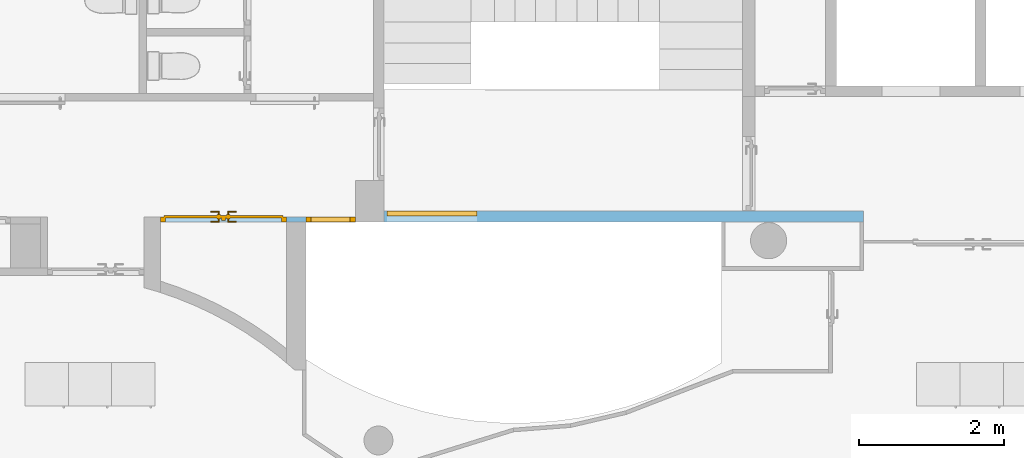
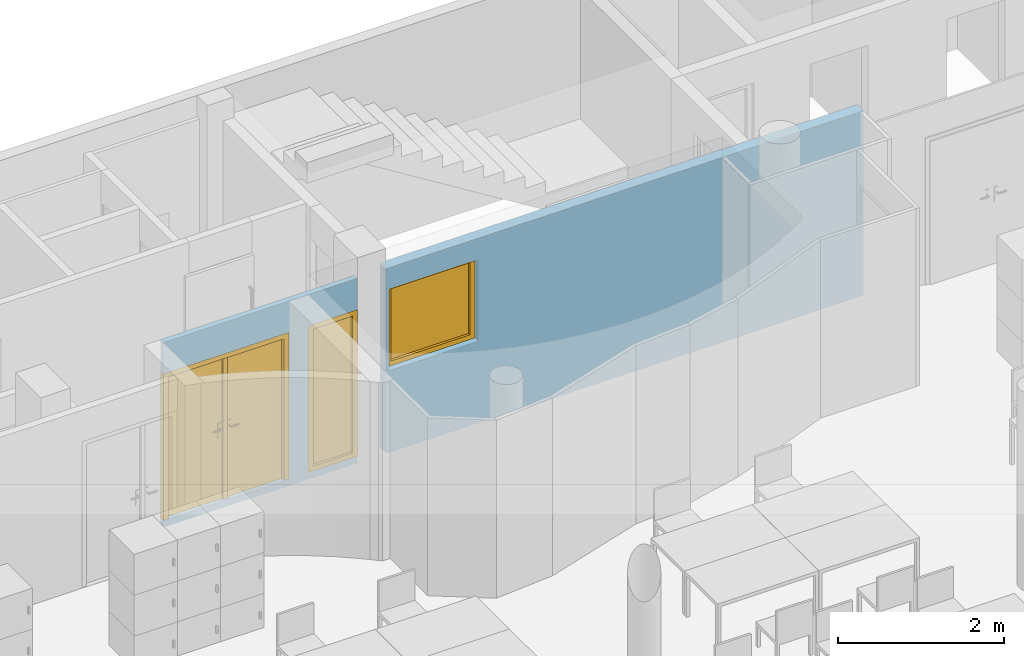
"""IFC4 building model written with IfcOpenShell, lengths in metres."""

from ifc_helpers import new_model, entity, si_unit, converted_unit, derived_unit, frame, frame_2d, origin, origin_with_axes, place, context, subcontext, project, spatial, polyline, rectangle, outline, extrude, closed_shell, open_shell, faceted_brep, surface_model, source, transform, mapped, material, layer, layer_set, layer_usage, type_object, element, fill, save


model = new_model("IFC4")

# Units and contexts
model_context = context("Model", 3, precision=1e-05, world=origin())
body_context = subcontext(model_context, "Body", "Model", "MODEL_VIEW")
ifc_project = project(units=[si_unit("LENGTHUNIT", "METRE"), si_unit("AREAUNIT", "SQUARE_METRE"), si_unit("VOLUMEUNIT", "CUBIC_METRE"), si_unit("MASSUNIT", "GRAM", prefix="KILO"), converted_unit("PLANEANGLEUNIT", "DEGREE", entity("IfcPlaneAngleMeasure", 0.0174532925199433), si_unit("PLANEANGLEUNIT", "RADIAN"), dimensions=[0, 0, 0, 0, 0, 0, 0]), derived_unit("THERMALTRANSMITTANCEUNIT", [(si_unit("POWERUNIT", "WATT"), 1), (si_unit("THERMODYNAMICTEMPERATUREUNIT", "KELVIN"), -1), (si_unit("LENGTHUNIT", "METRE"), -2)]), derived_unit("VOLUMETRICFLOWRATEUNIT", [(si_unit("LENGTHUNIT", "METRE"), 3), (converted_unit("TIMEUNIT", "hour", entity("IfcTimeMeasure", 3600.0), si_unit("TIMEUNIT", "SECOND"), dimensions=[0, 0, 1, 0, 0, 0, 0]), -1), (si_unit("LENGTHUNIT", "METRE"), -1)])], contexts=[model_context])

# Building, storeys
building_placement = place(None, origin())
building = spatial("IfcBuilding", under=ifc_project, at=building_placement, Name="HABITATGE PLURIFAMILIAR", CompositionType="ELEMENT")
storey_1_placement = place(building_placement, frame((0.0, 0.0, 15.28)))
storey_1 = spatial("IfcBuildingStorey", under=building, at=storey_1_placement, Name="PLANTA QUARTA", CompositionType="ELEMENT", Elevation=15.28)
storey_2_placement = place(storey_1_placement, frame((0.0, 0.0, 12.27)))
storey_2 = spatial("IfcBuildingStorey", under=storey_1, at=storey_2_placement, Name="NOU", CompositionType="PARTIAL")

# Wall, opening, window
ifc_material_1 = material()
ifc_layer_1 = layer(ifc_material_1, 0.15)
ifc_layer_set_1 = layer_set([ifc_layer_1])
ifc_layer_usage_1 = layer_usage(ifc_layer_set_1, "AXIS2", "POSITIVE", 0.0)
wall_1_placement = place(storey_2_placement, frame((417.446984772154, 24.3094598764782, -12.37), z_axis=(0.0, 0.0, 1.0), x_axis=(-1.0, 0.0, 0.0)))
wall_1 = element("IfcWall", 1, at=wall_1_placement, inside=storey_2, material=ifc_layer_usage_1, Name="Evans P4", context=body_context, shape_type="SweptSolid", body=[
    extrude(rectangle(XDim=6.61999999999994, YDim=0.15, at=frame_2d((3.30999999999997, 0.075), x_axis=(1.0, 0.0))), origin_with_axes(), (0.0, 0.0, 1.0), 2.71),
])
opening_1_placement = place(wall_1_placement, frame((6.57999999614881, 0.1500000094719, 1.2), z_axis=(0.0, -1.0, 0.0), x_axis=(0.0, 0.0, 1.0)))
opening_1 = element("IfcOpeningElement", 2, at=opening_1_placement, cuts=wall_1, Name="Vano de Finestra P4", ObjectType="Opening", context=body_context, shape_type="SweptSolid", body=[
    extrude(outline(polyline([(1.2, 1.24), (1.2, 0.0), (0.0, 0.0), (0.0, 1.24), (1.2, 1.24)])), origin_with_axes(), (0.0, 0.0, 1.0), 0.15),
])
shared_shape_1 = source(origin_with_axes(), body_context, "Body", "SurfaceModel", [
    surface_model("IfcShellBasedSurfaceModel", [(1.24, 0.0, 1.2), (1.24, 0.0, 0.0), (1.17, 0.0, 0.0), (1.17, 0.0, 1.2), (1.24, 0.07, 0.0), (1.24, 0.07, 1.2), (1.17, 0.07, 1.2), (1.17, 0.07, 0.0)], [closed_shell([[[0, 1, 2, 3]], [[4, 5, 6, 7]], [[1, 0, 5, 4]], [[2, 1, 4, 7]], [[3, 2, 7, 6]], [[0, 3, 6, 5]]], orient=[[False], [False], [False], [False], [False], [False]])]),
    surface_model("IfcShellBasedSurfaceModel", [(0.07, 0.0, 1.2), (0.07, 0.0, 0.0), (0.0, 0.0, 0.0), (0.0, 0.0, 1.2), (0.07, 0.07, 0.0), (0.07, 0.07, 1.2), (0.0, 0.07, 1.2), (0.0, 0.07, 0.0)], [closed_shell([[[0, 1, 2, 3]], [[4, 5, 6, 7]], [[1, 0, 5, 4]], [[2, 1, 4, 7]], [[3, 2, 7, 6]], [[0, 3, 6, 5]]], orient=[[False], [False], [False], [False], [False], [False]])]),
    surface_model("IfcShellBasedSurfaceModel", [(1.17, 0.0, 0.07), (1.17, 0.0, 0.0), (0.07, 0.0, 0.0), (0.07, 0.0, 0.07), (1.17, 0.07, 0.0), (1.17, 0.07, 0.07), (0.07, 0.07, 0.07), (0.07, 0.07, 0.0)], [closed_shell([[[0, 1, 2, 3]], [[4, 5, 6, 7]], [[1, 0, 5, 4]], [[2, 1, 4, 7]], [[3, 2, 7, 6]], [[0, 3, 6, 5]]], orient=[[False], [False], [False], [False], [False], [False]])]),
    surface_model("IfcShellBasedSurfaceModel", [(1.17, 0.0, 1.2), (1.17, 0.0, 1.13), (0.07, 0.0, 1.13), (0.07, 0.0, 1.2), (1.17, 0.07, 1.13), (1.17, 0.07, 1.2), (0.07, 0.07, 1.2), (0.07, 0.07, 1.13)], [closed_shell([[[0, 1, 2, 3]], [[4, 5, 6, 7]], [[1, 0, 5, 4]], [[2, 1, 4, 7]], [[3, 2, 7, 6]], [[0, 3, 6, 5]]], orient=[[False], [False], [False], [False], [False], [False]])]),
    surface_model("IfcShellBasedSurfaceModel", [(1.17, 0.035, 0.07), (0.07, 0.035, 0.07), (0.07, 0.035, 1.13), (1.17, 0.035, 1.13)], [open_shell([[[0, 1, 2, 3]]], orient=[[False]])]),
])
window_placement = place(opening_1_placement, frame((0.0, 1.24, 0.15), z_axis=(1.0, 0.0, 0.0), x_axis=(0.0, -1.0, 0.0)))
window = element("IfcWindow", 3, at=window_placement, inside=storey_2, Name="Finestra P4", OverallHeight=1.2, OverallWidth=1.24, PartitioningType="USERDEFINED", PredefinedType="WINDOW", context=body_context, shape_type="MappedRepresentation", body=[
    mapped(shared_shape_1, transform((0.0, 0.0, 0.0), x_axis=(1.0, 0.0, 0.0), y_axis=(0.0, 1.0, 0.0), z_axis=(0.0, 0.0, 1.0), scale=1.0)),
])
fill(opening_1, window)

# Wall, openings, doors
ifc_material_2 = material()
ifc_layer_2 = layer(ifc_material_2, 0.07)
ifc_layer_set_2 = layer_set([ifc_layer_2])
ifc_layer_usage_2 = layer_usage(ifc_layer_set_2, "AXIS2", "POSITIVE", 0.0)
wall_2_placement = place(storey_2_placement, frame((410.423872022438, 24.2294598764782, -12.37), z_axis=(0.0, 0.0, 1.0), x_axis=(-1.0, 0.0, 0.0)))
wall_2 = element("IfcWall", 4, at=wall_2_placement, inside=storey_2, material=ifc_layer_usage_2, Name="Evans P4", context=body_context, shape_type="SweptSolid", body=[
    extrude(rectangle(XDim=2.68688724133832, YDim=0.07, at=frame_2d((1.34344362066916, 0.035), x_axis=(1.0, 0.0))), origin_with_axes(), (0.0, 0.0, 1.0), 2.71),
])
opening_2_placement = place(wall_2_placement, frame((0.676887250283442, 0.07, 0.1), z_axis=(0.0, -1.0, 0.0), x_axis=(0.0, 0.0, 1.0)))
opening_2 = element("IfcOpeningElement", 5, at=opening_2_placement, cuts=wall_2, Name="Vano porta P4", ObjectType="Opening", context=body_context, shape_type="SweptSolid", body=[
    extrude(outline(polyline([(2.15, 0.68), (2.15, 0.0), (0.0, 0.0), (0.0, 0.68), (2.15, 0.68)])), origin_with_axes(), (0.0, 0.0, 1.0), 0.07),
])
opening_3_placement = place(wall_2_placement, frame((2.68688725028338, 0.07, 0.1), z_axis=(0.0, -1.0, 0.0), x_axis=(0.0, 0.0, 1.0)))
opening_3 = element("IfcOpeningElement", 6, at=opening_3_placement, cuts=wall_2, Name="Vano porta P4", ObjectType="Opening", context=body_context, shape_type="SweptSolid", body=[
    extrude(outline(polyline([(2.15, 1.73842385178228), (2.15, 0.0), (0.0, 0.0), (0.0, 1.73842385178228), (2.15, 1.73842385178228)])), origin_with_axes(), (0.0, 0.0, 1.0), 0.07),
])
door_type = type_object("IfcDoorType", Name="Porta P4", OperationType="NOTDEFINED", ParameterTakesPrecedence=False, PredefinedType="DOOR")
shared_shape_2 = source(origin_with_axes(), body_context, "Body", "SurfaceModel", [
    surface_model("IfcShellBasedSurfaceModel", [(0.0, 0.0700000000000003, 2.15), (0.0, 0.07, 0.0), (0.07, 0.07, 0.0), (0.07, 0.0700000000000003, 2.15), (0.0, 0.0, 0.0), (0.0, 0.0, 2.15), (0.07, 0.0, 2.15), (0.07, 0.0, 0.0)], [closed_shell([[[0, 1, 2, 3]], [[4, 5, 6, 7]], [[1, 0, 5, 4]], [[2, 1, 4, 7]], [[3, 2, 7, 6]], [[0, 3, 6, 5]]], orient=[[False], [False], [False], [False], [False], [False]])]),
    surface_model("IfcShellBasedSurfaceModel", [(0.61, 0.0700000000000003, 2.15), (0.61, 0.07, 0.0), (0.68, 0.07, 0.0), (0.68, 0.0700000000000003, 2.15), (0.61, 0.0, 0.0), (0.61, 0.0, 2.15), (0.68, 0.0, 2.15), (0.68, 0.0, 0.0)], [closed_shell([[[0, 1, 2, 3]], [[4, 5, 6, 7]], [[1, 0, 5, 4]], [[2, 1, 4, 7]], [[3, 2, 7, 6]], [[0, 3, 6, 5]]], orient=[[False], [False], [False], [False], [False], [False]])]),
    surface_model("IfcShellBasedSurfaceModel", [(0.07, 0.07, 0.07), (0.07, 0.07, 0.0), (0.61, 0.07, 0.0), (0.61, 0.07, 0.07), (0.07, 0.0, 0.0), (0.07, 0.0, 0.07), (0.61, 0.0, 0.07), (0.61, 0.0, 0.0)], [closed_shell([[[0, 1, 2, 3]], [[4, 5, 6, 7]], [[1, 0, 5, 4]], [[2, 1, 4, 7]], [[3, 2, 7, 6]], [[0, 3, 6, 5]]], orient=[[False], [False], [False], [False], [False], [False]])]),
    surface_model("IfcShellBasedSurfaceModel", [(0.07, 0.0700000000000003, 2.15), (0.07, 0.0700000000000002, 2.08), (0.61, 0.0700000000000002, 2.08), (0.61, 0.0700000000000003, 2.15), (0.07, 0.0, 2.08), (0.07, 0.0, 2.15), (0.61, 0.0, 2.15), (0.61, 0.0, 2.08)], [closed_shell([[[0, 1, 2, 3]], [[4, 5, 6, 7]], [[1, 0, 5, 4]], [[2, 1, 4, 7]], [[3, 2, 7, 6]], [[0, 3, 6, 5]]], orient=[[False], [False], [False], [False], [False], [False]])]),
    surface_model("IfcShellBasedSurfaceModel", [(0.07, 0.035, 0.07), (0.61, 0.035, 0.07), (0.61, 0.0350000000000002, 2.08), (0.07, 0.0350000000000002, 2.08)], [open_shell([[[0, 1, 2, 3]]], orient=[[False]])]),
])
door_1_placement = place(opening_2_placement, frame((0.0, 0.68, 0.0), z_axis=(1.0, 0.0, 0.0), x_axis=(0.0, -1.0, 0.0)))
door_1 = element("IfcDoor", 7, at=door_1_placement, inside=storey_2, type_object=door_type, Name="Porta P4", OverallHeight=2.15, OverallWidth=0.68, context=body_context, shape_type="MappedRepresentation", body=[
    mapped(shared_shape_2, transform((0.0, 0.0, 0.0), x_axis=(1.0, 0.0, 0.0), y_axis=(0.0, -1.0, 0.0), z_axis=(0.0, 0.0, 1.0), scale=1.0)),
])
fill(opening_2, door_1)
shared_shape_3 = source(origin_with_axes(), body_context, "Body", "Brep", [
    faceted_brep([(0.0, 0.07, 2.15), (0.0, 0.07, 0.0), (0.07, 0.07, 0.0), (0.07, 0.07, 2.15), (0.0, 0.0, 0.0), (0.0, 0.0, 2.15), (0.07, 0.0, 2.15), (0.07, 0.0, 0.0)], [[[0, 1, 2, 3]], [[4, 5, 6, 7]], [[1, 0, 5, 4]], [[2, 1, 4, 7]], [[3, 2, 7, 6]], [[0, 3, 6, 5]]], orient=[[False], [False], [False], [False], [False], [False]]),
    faceted_brep([(1.66842385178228, 0.07, 2.15), (1.66842385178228, 0.07, 0.0), (1.73842385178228, 0.07, 0.0), (1.73842385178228, 0.07, 2.15), (1.66842385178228, 0.0, 0.0), (1.66842385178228, 0.0, 2.15), (1.73842385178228, 0.0, 2.15), (1.73842385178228, 0.0, 0.0)], [[[0, 1, 2, 3]], [[4, 5, 6, 7]], [[1, 0, 5, 4]], [[2, 1, 4, 7]], [[3, 2, 7, 6]], [[0, 3, 6, 5]]], orient=[[False], [False], [False], [False], [False], [False]]),
    faceted_brep([(0.07, 0.07, 2.15), (0.07, 0.07, 2.08), (1.66842385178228, 0.07, 2.08), (1.66842385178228, 0.07, 2.15), (0.07, 0.0, 2.08), (0.07, 0.0, 2.15), (1.66842385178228, 0.0, 2.15), (1.66842385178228, 0.0, 2.08)], [[[0, 1, 2, 3]], [[4, 5, 6, 7]], [[1, 0, 5, 4]], [[2, 1, 4, 7]], [[3, 2, 7, 6]], [[0, 3, 6, 5]]], orient=[[False], [False], [False], [False], [False], [False]]),
    faceted_brep([(0.05, 0.09, 2.1), (0.05, 0.09, 0.0), (0.868711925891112, 0.09, 0.0), (0.868711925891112, 0.09, 2.1), (0.05, 0.05, 0.0), (0.05, 0.05, 2.1), (0.868711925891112, 0.05, 2.1), (0.868711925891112, 0.05, 0.0)], [[[0, 1, 2, 3]], [[4, 5, 6, 7]], [[1, 0, 5, 4]], [[2, 1, 4, 7]], [[3, 2, 7, 6]], [[0, 3, 6, 5]]], orient=[[False], [False], [False], [False], [False], [False]]),
    faceted_brep([(0.838711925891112, 0.05, 2.08), (0.838711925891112, 0.05, 0.0), (0.89871192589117, 0.05, 0.0), (0.89871192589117, 0.05, 2.08), (0.838711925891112, 0.02, 0.0), (0.838711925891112, 0.02, 2.08), (0.89871192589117, 0.02, 2.08), (0.89871192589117, 0.02, 0.0)], [[[0, 1, 2, 3]], [[4, 5, 6, 7]], [[1, 0, 5, 4]], [[2, 1, 4, 7]], [[3, 2, 7, 6]], [[0, 3, 6, 5]]], orient=[[False], [False], [False], [False], [False], [False]]),
    faceted_brep([(0.778711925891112, 0.05, 1.125), (0.778711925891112, 0.05, 0.91), (0.828711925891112, 0.05, 0.91), (0.828711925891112, 0.05, 1.125), (0.778711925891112, 0.04, 0.91), (0.778711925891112, 0.04, 1.125), (0.828711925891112, 0.04, 1.125), (0.828711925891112, 0.04, 0.91)], [[[0, 1, 2, 3]], [[4, 5, 6, 7]], [[1, 0, 5, 4]], [[2, 1, 4, 7]], [[3, 2, 7, 6]], [[0, 3, 6, 5]]], orient=[[False], [False], [False], [False], [False], [False]]),
    faceted_brep([(0.803711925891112, 0.04, 1.06), (0.798711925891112, 0.04, 1.05866025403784), (0.795051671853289, 0.04, 1.055), (0.793711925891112, 0.04, 1.05), (0.795051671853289, 0.04, 1.045), (0.798711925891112, 0.04, 1.04133974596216), (0.803711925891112, 0.04, 1.04), (0.808711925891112, 0.04, 1.04133974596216), (0.812372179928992, 0.04, 1.045), (0.813711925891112, 0.04, 1.05), (0.812372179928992, 0.04, 1.055), (0.808711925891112, 0.04, 1.05866025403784), (0.808711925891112, -0.005, 1.05866025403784), (0.803711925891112, 0.0, 1.06), (0.812372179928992, -0.00866025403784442, 1.055), (0.813711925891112, -0.01, 1.05), (0.812372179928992, -0.00866025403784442, 1.045), (0.808711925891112, -0.005, 1.04133974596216), (0.803711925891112, 0.0, 1.04), (0.798711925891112, 0.005, 1.04133974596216), (0.795051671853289, 0.00866025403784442, 1.045), (0.793711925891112, 0.01, 1.05), (0.795051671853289, 0.00866025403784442, 1.055), (0.798711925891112, 0.005, 1.05866025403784), (0.688711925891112, 0.0, 1.06), (0.688711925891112, -0.005, 1.05866025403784), (0.688711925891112, -0.00866025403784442, 1.055), (0.688711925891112, -0.01, 1.05), (0.688711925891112, -0.00866025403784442, 1.045), (0.688711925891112, -0.005, 1.04133974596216), (0.688711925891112, 0.0, 1.04), (0.688711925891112, 0.005, 1.04133974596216), (0.688711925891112, 0.00866025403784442, 1.045), (0.688711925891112, 0.01, 1.05), (0.688711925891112, 0.00866025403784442, 1.055), (0.688711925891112, 0.005, 1.05866025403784)], [[[0, 1, 2, 3, 4, 5, 6, 7, 8, 9, 10, 11]], [[0, 11, 12, 13]], [[11, 10, 14, 12]], [[10, 9, 15, 14]], [[9, 8, 16, 15]], [[8, 7, 17, 16]], [[7, 6, 18, 17]], [[6, 5, 19, 18]], [[5, 4, 20, 19]], [[4, 3, 21, 20]], [[3, 2, 22, 21]], [[2, 1, 23, 22]], [[1, 0, 13, 23]], [[24, 25, 26, 27, 28, 29, 30, 31, 32, 33, 34, 35]], [[13, 12, 25, 24]], [[12, 14, 26, 25]], [[14, 15, 27, 26]], [[15, 16, 28, 27]], [[16, 17, 29, 28]], [[17, 18, 30, 29]], [[18, 19, 31, 30]], [[19, 20, 32, 31]], [[20, 21, 33, 32]], [[21, 22, 34, 33]], [[22, 23, 35, 34]], [[23, 13, 24, 35]]], orient=[[False], [False], [False], [False], [False], [False], [False], [False], [False], [False], [False], [False], [False], [False], [False], [False], [False], [False], [False], [False], [False], [False], [False], [False], [False], [False]]),
    faceted_brep([(0.778711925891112, 0.09, 1.125), (0.828711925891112, 0.09, 1.125), (0.828711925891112, 0.09, 0.91), (0.778711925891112, 0.09, 0.91), (0.778711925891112, 0.1, 0.91), (0.828711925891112, 0.1, 0.91), (0.828711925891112, 0.1, 1.125), (0.778711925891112, 0.1, 1.125)], [[[0, 1, 2, 3]], [[4, 5, 6, 7]], [[3, 4, 7, 0]], [[2, 5, 4, 3]], [[1, 6, 5, 2]], [[0, 7, 6, 1]]], orient=[[False], [False], [False], [False], [False], [False]]),
    faceted_brep([(0.803711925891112, 0.1, 1.06), (0.808711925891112, 0.1, 1.05866025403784), (0.812372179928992, 0.1, 1.055), (0.813711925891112, 0.1, 1.05), (0.812372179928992, 0.1, 1.045), (0.808711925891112, 0.1, 1.04133974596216), (0.803711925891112, 0.1, 1.04), (0.798711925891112, 0.1, 1.04133974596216), (0.795051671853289, 0.1, 1.045), (0.793711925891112, 0.1, 1.05), (0.795051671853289, 0.1, 1.055), (0.798711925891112, 0.1, 1.05866025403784), (0.803711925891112, 0.14, 1.06), (0.808711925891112, 0.145, 1.05866025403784), (0.812372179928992, 0.148660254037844, 1.055), (0.813711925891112, 0.15, 1.05), (0.812372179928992, 0.148660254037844, 1.045), (0.808711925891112, 0.145, 1.04133974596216), (0.803711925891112, 0.14, 1.04), (0.798711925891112, 0.135, 1.04133974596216), (0.795051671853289, 0.131339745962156, 1.045), (0.793711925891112, 0.13, 1.05), (0.795051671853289, 0.131339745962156, 1.055), (0.798711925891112, 0.135, 1.05866025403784), (0.688711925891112, 0.14, 1.06), (0.688711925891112, 0.135, 1.05866025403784), (0.688711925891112, 0.131339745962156, 1.055), (0.688711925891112, 0.13, 1.05), (0.688711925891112, 0.131339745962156, 1.045), (0.688711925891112, 0.135, 1.04133974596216), (0.688711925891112, 0.14, 1.04), (0.688711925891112, 0.145, 1.04133974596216), (0.688711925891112, 0.148660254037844, 1.045), (0.688711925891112, 0.15, 1.05), (0.688711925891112, 0.148660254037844, 1.055), (0.688711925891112, 0.145, 1.05866025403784)], [[[0, 1, 2, 3, 4, 5, 6, 7, 8, 9, 10, 11]], [[0, 12, 13, 1]], [[1, 13, 14, 2]], [[2, 14, 15, 3]], [[3, 15, 16, 4]], [[4, 16, 17, 5]], [[5, 17, 18, 6]], [[6, 18, 19, 7]], [[7, 19, 20, 8]], [[8, 20, 21, 9]], [[9, 21, 22, 10]], [[10, 22, 23, 11]], [[11, 23, 12, 0]], [[24, 25, 26, 27, 28, 29, 30, 31, 32, 33, 34, 35]], [[12, 24, 35, 13]], [[13, 35, 34, 14]], [[14, 34, 33, 15]], [[15, 33, 32, 16]], [[16, 32, 31, 17]], [[17, 31, 30, 18]], [[18, 30, 29, 19]], [[19, 29, 28, 20]], [[20, 28, 27, 21]], [[21, 27, 26, 22]], [[22, 26, 25, 23]], [[23, 25, 24, 12]]], orient=[[False], [False], [False], [False], [False], [False], [False], [False], [False], [False], [False], [False], [False], [False], [False], [False], [False], [False], [False], [False], [False], [False], [False], [False], [False], [False]]),
    faceted_brep([(0.869711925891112, 0.09, 2.1), (0.869711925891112, 0.09, 0.0), (1.68842385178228, 0.09, 0.0), (1.68842385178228, 0.09, 2.1), (0.869711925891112, 0.05, 0.0), (0.869711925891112, 0.05, 2.1), (1.68842385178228, 0.05, 2.1), (1.68842385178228, 0.05, 0.0)], [[[0, 1, 2, 3]], [[4, 5, 6, 7]], [[1, 0, 5, 4]], [[2, 1, 4, 7]], [[3, 2, 7, 6]], [[0, 3, 6, 5]]], orient=[[False], [False], [False], [False], [False], [False]]),
    faceted_brep([(0.90971192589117, 0.05, 1.125), (0.90971192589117, 0.05, 0.91), (0.95971192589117, 0.05, 0.91), (0.95971192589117, 0.05, 1.125), (0.90971192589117, 0.04, 0.91), (0.90971192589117, 0.04, 1.125), (0.95971192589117, 0.04, 1.125), (0.95971192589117, 0.04, 0.91)], [[[0, 1, 2, 3]], [[4, 5, 6, 7]], [[1, 0, 5, 4]], [[2, 1, 4, 7]], [[3, 2, 7, 6]], [[0, 3, 6, 5]]], orient=[[False], [False], [False], [False], [False], [False]]),
    faceted_brep([(0.93471192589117, 0.04, 1.06), (0.92971192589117, 0.04, 1.05866025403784), (0.926051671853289, 0.04, 1.055), (0.92471192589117, 0.04, 1.05), (0.926051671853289, 0.04, 1.045), (0.92971192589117, 0.04, 1.04133974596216), (0.93471192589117, 0.04, 1.04), (0.93971192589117, 0.04, 1.04133974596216), (0.943372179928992, 0.04, 1.045), (0.94471192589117, 0.04, 1.05), (0.943372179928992, 0.04, 1.055), (0.93971192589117, 0.04, 1.05866025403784), (0.93471192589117, 0.0, 1.06), (0.92971192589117, -0.005, 1.05866025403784), (0.926051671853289, -0.00866025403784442, 1.055), (0.92471192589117, -0.01, 1.05), (0.926051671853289, -0.00866025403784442, 1.045), (0.92971192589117, -0.005, 1.04133974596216), (0.93471192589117, 0.0, 1.04), (0.93971192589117, 0.005, 1.04133974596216), (0.943372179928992, 0.00866025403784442, 1.045), (0.94471192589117, 0.01, 1.05), (0.943372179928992, 0.00866025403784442, 1.055), (0.93971192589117, 0.005, 1.05866025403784), (1.04971192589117, 0.0, 1.06), (1.04971192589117, 0.005, 1.05866025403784), (1.04971192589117, 0.00866025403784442, 1.055), (1.04971192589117, 0.01, 1.05), (1.04971192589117, 0.00866025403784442, 1.045), (1.04971192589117, 0.005, 1.04133974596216), (1.04971192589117, 0.0, 1.04), (1.04971192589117, -0.005, 1.04133974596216), (1.04971192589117, -0.00866025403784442, 1.045), (1.04971192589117, -0.01, 1.05), (1.04971192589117, -0.00866025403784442, 1.055), (1.04971192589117, -0.005, 1.05866025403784)], [[[0, 1, 2, 3, 4, 5, 6, 7, 8, 9, 10, 11]], [[0, 12, 13, 1]], [[1, 13, 14, 2]], [[2, 14, 15, 3]], [[3, 15, 16, 4]], [[4, 16, 17, 5]], [[5, 17, 18, 6]], [[6, 18, 19, 7]], [[7, 19, 20, 8]], [[8, 20, 21, 9]], [[9, 21, 22, 10]], [[10, 22, 23, 11]], [[11, 23, 12, 0]], [[24, 25, 26, 27, 28, 29, 30, 31, 32, 33, 34, 35]], [[12, 24, 35, 13]], [[13, 35, 34, 14]], [[14, 34, 33, 15]], [[15, 33, 32, 16]], [[16, 32, 31, 17]], [[17, 31, 30, 18]], [[18, 30, 29, 19]], [[19, 29, 28, 20]], [[20, 28, 27, 21]], [[21, 27, 26, 22]], [[22, 26, 25, 23]], [[23, 25, 24, 12]]], orient=[[False], [False], [False], [False], [False], [False], [False], [False], [False], [False], [False], [False], [False], [False], [False], [False], [False], [False], [False], [False], [False], [False], [False], [False], [False], [False]]),
    faceted_brep([(0.90971192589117, 0.09, 1.125), (0.95971192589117, 0.09, 1.125), (0.95971192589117, 0.09, 0.91), (0.90971192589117, 0.09, 0.91), (0.90971192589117, 0.1, 0.91), (0.95971192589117, 0.1, 0.91), (0.95971192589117, 0.1, 1.125), (0.90971192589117, 0.1, 1.125)], [[[0, 1, 2, 3]], [[4, 5, 6, 7]], [[3, 4, 7, 0]], [[2, 5, 4, 3]], [[1, 6, 5, 2]], [[0, 7, 6, 1]]], orient=[[False], [False], [False], [False], [False], [False]]),
    faceted_brep([(0.93471192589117, 0.1, 1.06), (0.93971192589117, 0.1, 1.05866025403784), (0.943372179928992, 0.1, 1.055), (0.94471192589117, 0.1, 1.05), (0.943372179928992, 0.1, 1.045), (0.93971192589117, 0.1, 1.04133974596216), (0.93471192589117, 0.1, 1.04), (0.92971192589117, 0.1, 1.04133974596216), (0.926051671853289, 0.1, 1.045), (0.92471192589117, 0.1, 1.05), (0.926051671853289, 0.1, 1.055), (0.92971192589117, 0.1, 1.05866025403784), (0.92971192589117, 0.145, 1.05866025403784), (0.93471192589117, 0.14, 1.06), (0.926051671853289, 0.148660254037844, 1.055), (0.92471192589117, 0.15, 1.05), (0.926051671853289, 0.148660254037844, 1.045), (0.92971192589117, 0.145, 1.04133974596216), (0.93471192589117, 0.14, 1.04), (0.93971192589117, 0.135, 1.04133974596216), (0.943372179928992, 0.131339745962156, 1.045), (0.94471192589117, 0.13, 1.05), (0.943372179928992, 0.131339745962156, 1.055), (0.93971192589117, 0.135, 1.05866025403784), (1.04971192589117, 0.14, 1.06), (1.04971192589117, 0.145, 1.05866025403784), (1.04971192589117, 0.148660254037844, 1.055), (1.04971192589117, 0.15, 1.05), (1.04971192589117, 0.148660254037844, 1.045), (1.04971192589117, 0.145, 1.04133974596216), (1.04971192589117, 0.14, 1.04), (1.04971192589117, 0.135, 1.04133974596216), (1.04971192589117, 0.131339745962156, 1.045), (1.04971192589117, 0.13, 1.05), (1.04971192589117, 0.131339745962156, 1.055), (1.04971192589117, 0.135, 1.05866025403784)], [[[0, 1, 2, 3, 4, 5, 6, 7, 8, 9, 10, 11]], [[0, 11, 12, 13]], [[11, 10, 14, 12]], [[10, 9, 15, 14]], [[9, 8, 16, 15]], [[8, 7, 17, 16]], [[7, 6, 18, 17]], [[6, 5, 19, 18]], [[5, 4, 20, 19]], [[4, 3, 21, 20]], [[3, 2, 22, 21]], [[2, 1, 23, 22]], [[1, 0, 13, 23]], [[24, 25, 26, 27, 28, 29, 30, 31, 32, 33, 34, 35]], [[13, 12, 25, 24]], [[12, 14, 26, 25]], [[14, 15, 27, 26]], [[15, 16, 28, 27]], [[16, 17, 29, 28]], [[17, 18, 30, 29]], [[18, 19, 31, 30]], [[19, 20, 32, 31]], [[20, 21, 33, 32]], [[21, 22, 34, 33]], [[22, 23, 35, 34]], [[23, 13, 24, 35]]], orient=[[False], [False], [False], [False], [False], [False], [False], [False], [False], [False], [False], [False], [False], [False], [False], [False], [False], [False], [False], [False], [False], [False], [False], [False], [False], [False]]),
])
door_2_placement = place(opening_3_placement, frame((0.0, 0.0, 0.0), z_axis=(1.0, 0.0, 0.0), x_axis=(0.0, 1.0, 0.0)))
door_2 = element("IfcDoor", 8, at=door_2_placement, inside=storey_2, Name="Porta P4", OperationType="USERDEFINED", OverallHeight=2.15, OverallWidth=1.73842, PredefinedType="DOOR", context=body_context, shape_type="MappedRepresentation", body=[
    mapped(shared_shape_3, transform((0.0, 0.0, 0.0), x_axis=(1.0, 0.0, 0.0), y_axis=(0.0, 1.0, 0.0), z_axis=(0.0, 0.0, 1.0), scale=1.0)),
])
fill(opening_3, door_2)

save(model, "model.ifc")
